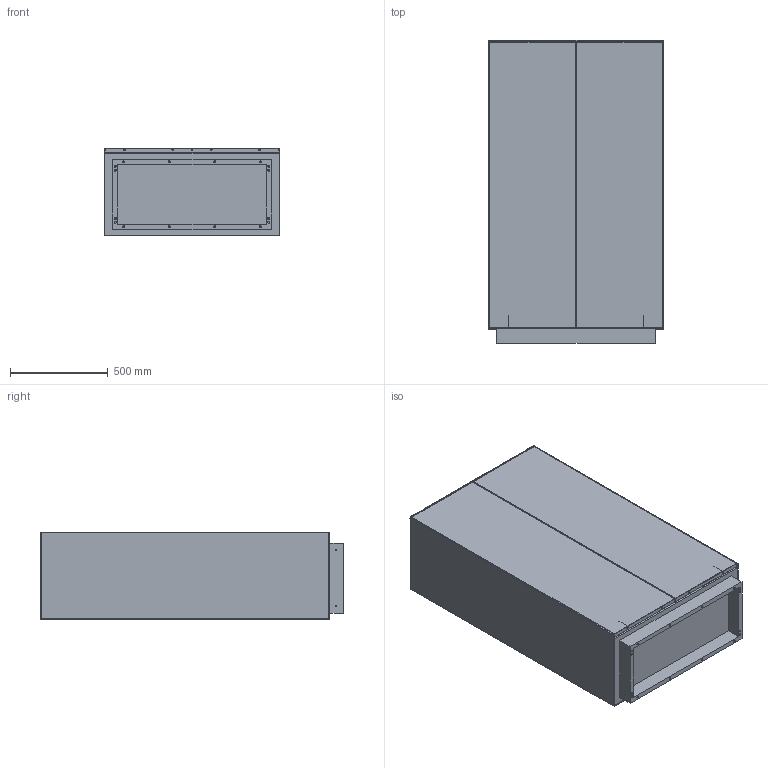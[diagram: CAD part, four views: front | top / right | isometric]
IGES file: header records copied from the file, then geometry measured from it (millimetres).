
Start section: SolidWorks IGES file using analytic representation for surfaces
Global section: file name: \\UTENTI\Dati Utenti\Tecnico\DC\2D - 3D per sito\3D\DeCastelli-2D-Marea Cabinet.igs; native system: SolidWorks 2022; preprocessor: SolidWorks 2022; author: maria; date: 240716.112008; units: millimetre
Bounding box: 900 x 1550.3 x 450 mm (x, y, z)
Surface area: 9578796.2 mm2 (no closed solid volume)
Topology: 0 solids, 0 shells, 133 faces, 2752 edges, 2752 vertices
Faces by surface type: bspline 75, revolution 58
